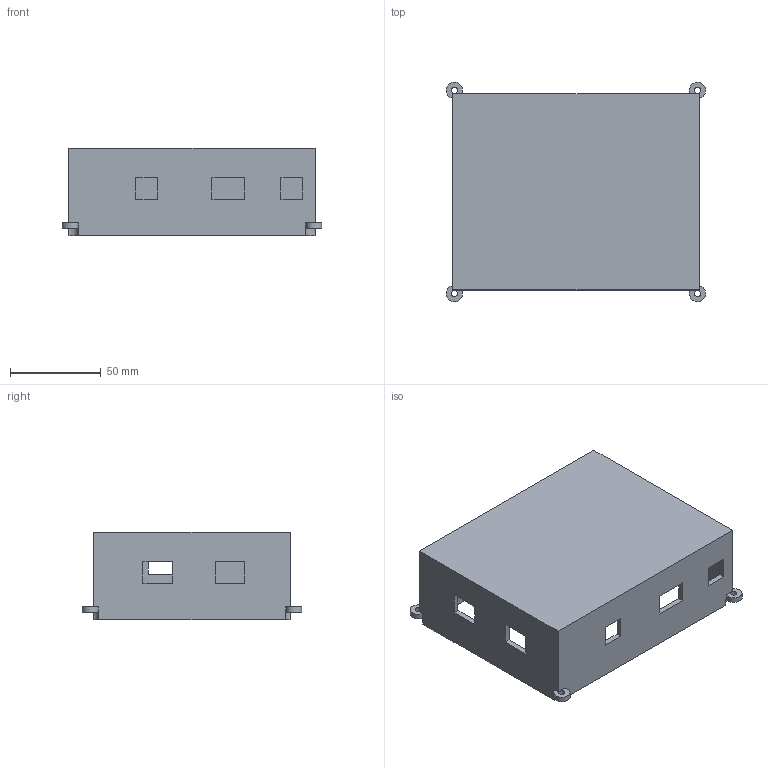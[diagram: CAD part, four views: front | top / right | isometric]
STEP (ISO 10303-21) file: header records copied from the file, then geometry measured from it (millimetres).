
FILE_DESCRIPTION(('Open CASCADE Model'),'2;1');
FILE_NAME('Open CASCADE Shape Model','2026-11-19T15:07:55',('Author'),( 'Open CASCADE'),'Open CASCADE STEP processor 8.0','Open CASCADE 8.0' ,'Unknown');
FILE_SCHEMA(('AUTOMOTIVE_DESIGN { 1 0 10303 214 1 1 1 1 }'));
Length unit declared in the file: millimetre
Products named in the file (1): Open CASCADE STEP translator 8.0 12
Bounding box: 143 x 121 x 48 mm (x, y, z)
Volume: 105081.1 mm3; surface area: 72999.8 mm2
Topology: 1 solids, 1 shells, 64 faces, 179 edges, 118 vertices
Faces by surface type: plane 47, cylinder 17
Full cylindrical faces by diameter (mm): 3.4 x4, 8 x1
Entity records: 4426 total; most frequent: CARTESIAN_POINT 720, DIRECTION 701, LINE 469, VECTOR 469, ORIENTED_EDGE 358, PCURVE 358, DEFINITIONAL_REPRESENTATION 358, EDGE_CURVE 179
